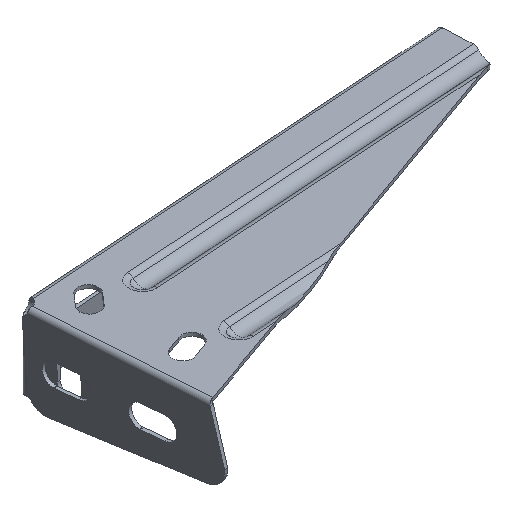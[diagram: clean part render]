
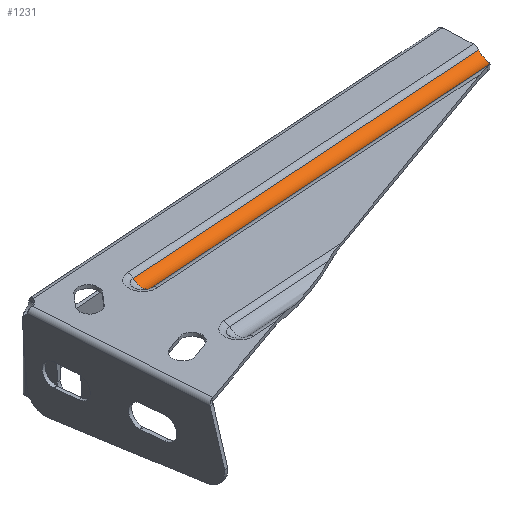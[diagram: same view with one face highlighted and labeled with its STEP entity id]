
A CAD part, isometric view. The second image highlights one B-rep face of the part: STEP entity #1231.
In plain terms, the highlighted cylindrical face has radius 5 mm (diameter 10 mm), a partial arc.
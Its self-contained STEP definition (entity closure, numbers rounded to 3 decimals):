
#101 =( BOUNDED_CURVE ( )  B_SPLINE_CURVE ( 3, ( #2341, #3247, #1264, #978 ),
 .UNSPECIFIED., .F., .T. ) 
 B_SPLINE_CURVE_WITH_KNOTS ( ( 4, 4 ),
 ( 0.675, 1.056 ),
 .UNSPECIFIED. ) 
 CURVE ( )  GEOMETRIC_REPRESENTATION_ITEM ( )  RATIONAL_B_SPLINE_CURVE ( ( 1., 0.988, 0.988, 1. ) ) 
 REPRESENTATION_ITEM ( '' )  );
#155 = CARTESIAN_POINT ( 'NONE',  ( 199.043, -3.349, 0.375 ) ) ;
#259 = CARTESIAN_POINT ( 'NONE',  ( 198.429, -8.288, -1.411 ) ) ;
#421 = CARTESIAN_POINT ( 'NONE',  ( 35.384, -22.278, 0.375 ) ) ;
#449 = CIRCLE ( 'NONE', #1202, 5. ) ;
#455 = DIRECTION ( 'NONE',  ( 0.998, 0.068, 0. ) ) ;
#512 = CARTESIAN_POINT ( 'NONE',  ( 196.234, -11.208, 0.181 ) ) ;
#560 = VECTOR ( 'NONE', #455, 1000. ) ;
#757 = VERTEX_POINT ( 'NONE', #1322 ) ;
#765 = CARTESIAN_POINT ( 'NONE',  ( 198.865, -7.015, -1.504 ) ) ;
#838 = VERTEX_POINT ( 'NONE', #3626 ) ;
#843 = DIRECTION ( 'NONE',  ( -0.068, 0.998, 0. ) ) ;
#892 = EDGE_LOOP ( 'NONE', ( #3043, #2064, #3356, #1996, #2707 ) ) ;
#978 = CARTESIAN_POINT ( 'NONE',  ( 199.094, -4.789, -0.851 ) ) ;
#1000 = CARTESIAN_POINT ( 'NONE',  ( 197.979, -9.161, -1.164 ) ) ;
#1038 = CARTESIAN_POINT ( 'NONE',  ( 197.069, -10.401, -0.509 ) ) ;
#1074 = CARTESIAN_POINT ( 'NONE',  ( 199.047, -6.029, -1.358 ) ) ;
#1147 = B_SPLINE_CURVE_WITH_KNOTS ( 'NONE', 3,
 ( #1881, #1863, #2784, #1074, #1586, #765, #1327, #3533, #259, #2718, #1000, #3022, #1904, #1038, #2697, #2127, #512, #2424 ),
 .UNSPECIFIED., .F., .F.,
 ( 4, 2, 2, 2, 2, 2, 2, 2, 4 ),
 ( 0., 0.001, 0.002, 0.003, 0.004, 0.005, 0.006, 0.007, 0.008 ),
 .UNSPECIFIED. ) ;
#1202 = AXIS2_PLACEMENT_3D ( 'NONE', #2986, #3029, #1814 ) ;
#1231 = ADVANCED_FACE ( 'NONE', ( #3124 ), #2764, .F. ) ;
#1264 = CARTESIAN_POINT ( 'NONE',  ( 199.074, -4.233, -0.537 ) ) ;
#1322 = CARTESIAN_POINT ( 'NONE',  ( 199.094, -4.789, -0.851 ) ) ;
#1327 = CARTESIAN_POINT ( 'NONE',  ( 198.776, -7.341, -1.509 ) ) ;
#1430 = AXIS2_PLACEMENT_3D ( 'NONE', #2822, #2264, #843 ) ;
#1545 = VERTEX_POINT ( 'NONE', #155 ) ;
#1586 = CARTESIAN_POINT ( 'NONE',  ( 199., -6.362, -1.429 ) ) ;
#1814 = DIRECTION ( 'NONE',  ( -0.068, 0.998, 0. ) ) ;
#1828 = DIRECTION ( 'NONE',  ( 0.998, 0.068, 0. ) ) ;
#1844 = EDGE_CURVE ( 'NONE', #1545, #757, #101, .T. ) ;
#1863 = CARTESIAN_POINT ( 'NONE',  ( 199.104, -5.084, -1.019 ) ) ;
#1881 = CARTESIAN_POINT ( 'NONE',  ( 199.094, -4.789, -0.851 ) ) ;
#1904 = CARTESIAN_POINT ( 'NONE',  ( 197.453, -9.937, -0.802 ) ) ;
#1996 = ORIENTED_EDGE ( 'NONE', *, *, #3224, .T. ) ;
#2064 = ORIENTED_EDGE ( 'NONE', *, *, #3623, .F. ) ;
#2103 = VERTEX_POINT ( 'NONE', #2403 ) ;
#2127 = CARTESIAN_POINT ( 'NONE',  ( 196.449, -11.023, -0.002 ) ) ;
#2165 = LINE ( 'NONE', #3233, #560 ) ;
#2264 = DIRECTION ( 'NONE',  ( 0.998, 0.068, 0. ) ) ;
#2341 = CARTESIAN_POINT ( 'NONE',  ( 199.043, -3.349, 0.375 ) ) ;
#2403 = CARTESIAN_POINT ( 'NONE',  ( 196.016, -11.378, 0.375 ) ) ;
#2424 = CARTESIAN_POINT ( 'NONE',  ( 196.016, -11.378, 0.375 ) ) ;
#2446 = EDGE_CURVE ( 'NONE', #757, #2103, #1147, .T. ) ;
#2626 = VECTOR ( 'NONE', #1828, 1000. ) ;
#2697 = CARTESIAN_POINT ( 'NONE',  ( 196.866, -10.62, -0.347 ) ) ;
#2707 = ORIENTED_EDGE ( 'NONE', *, *, #2446, .F. ) ;
#2718 = CARTESIAN_POINT ( 'NONE',  ( 198.141, -8.877, -1.262 ) ) ;
#2764 = CYLINDRICAL_SURFACE ( 'NONE', #1430, 5. ) ;
#2784 = CARTESIAN_POINT ( 'NONE',  ( 199.098, -5.392, -1.153 ) ) ;
#2822 = CARTESIAN_POINT ( 'NONE',  ( 35.12, -18.384, 3.5 ) ) ;
#2940 = VERTEX_POINT ( 'NONE', #3075 ) ;
#2986 = CARTESIAN_POINT ( 'NONE',  ( 35.12, -18.384, 3.5 ) ) ;
#3022 = CARTESIAN_POINT ( 'NONE',  ( 197.636, -9.69, -0.934 ) ) ;
#3029 = DIRECTION ( 'NONE',  ( -0.998, -0.068, 0. ) ) ;
#3043 = ORIENTED_EDGE ( 'NONE', *, *, #1844, .F. ) ;
#3075 = CARTESIAN_POINT ( 'NONE',  ( 35.384, -22.278, 0.375 ) ) ;
#3124 = FACE_OUTER_BOUND ( 'NONE', #892, .T. ) ;
#3224 = EDGE_CURVE ( 'NONE', #2940, #2103, #3579, .T. ) ;
#3233 = CARTESIAN_POINT ( 'NONE',  ( 34.856, -14.49, 0.375 ) ) ;
#3247 = CARTESIAN_POINT ( 'NONE',  ( 199.057, -3.747, -0.123 ) ) ;
#3280 = EDGE_CURVE ( 'NONE', #838, #2940, #449, .T. ) ;
#3356 = ORIENTED_EDGE ( 'NONE', *, *, #3280, .T. ) ;
#3533 = CARTESIAN_POINT ( 'NONE',  ( 198.557, -7.981, -1.463 ) ) ;
#3579 = LINE ( 'NONE', #421, #2626 ) ;
#3623 = EDGE_CURVE ( 'NONE', #838, #1545, #2165, .T. ) ;
#3626 = CARTESIAN_POINT ( 'NONE',  ( 34.856, -14.49, 0.375 ) ) ;
